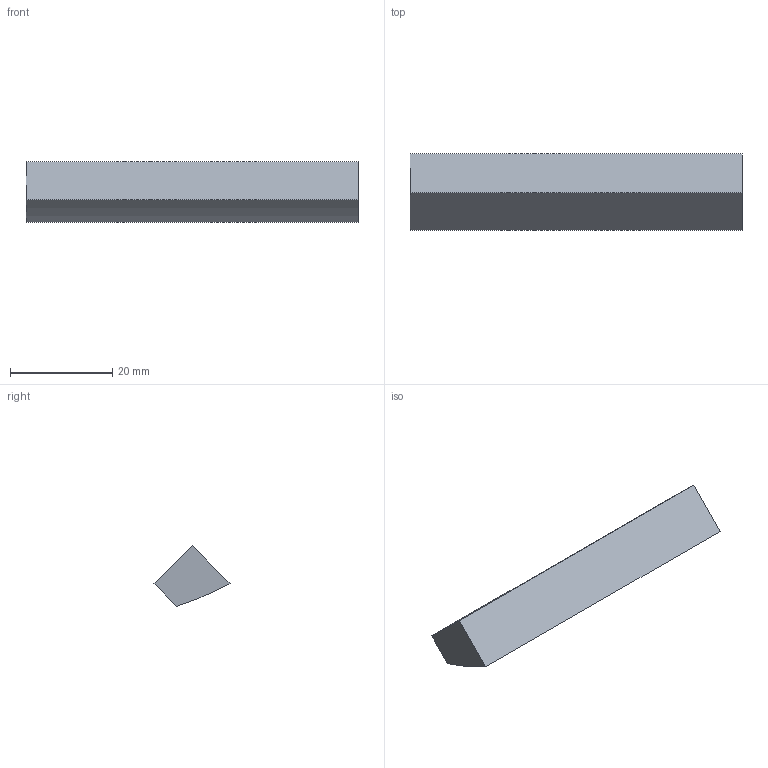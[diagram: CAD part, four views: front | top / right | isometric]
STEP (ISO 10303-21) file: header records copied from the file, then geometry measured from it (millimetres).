
FILE_DESCRIPTION(/* description */ ('STEP AP242 Edition 2','CAx-IF Rec.Pracs.---Representation and Presentation of Product Manufacturing Information (PMI)---4.0---2014-10-13','CAx-IF Rec.Pracs.---3D Tessellated Geometry---0.4---2014-09-14','2;1','CAx-IF Rec.Pracs.---User Defined Attributes---1.5---2016-08-15'),/* implementation_level */ '2;1');
FILE_NAME(/* name */ 'main - Part 46',/* time_stamp */ '2026-11-08T20:03:45Z',/* author */ (''),/* organization */ (''),/* preprocessor_version */ 'ST-DEVELOPER v20',/* originating_system */ 'ONSHAPE BY PTC INC, 1.223',/* authorisation */ ' ');
FILE_SCHEMA (('AP242_MANAGED_MODEL_BASED_3D_ENGINEERING_MIM_LF { 1 0 10303 442 3 1 4 }'));
Length unit declared in the file: metre
Products named in the file (1): Part 46
Bounding box: 65 x 14.88 x 11.89 mm (x, y, z)
Volume: 5886.8 mm3; surface area: 2698.1 mm2
Topology: 1 solids, 1 shells, 6 faces, 12 edges, 8 vertices
Faces by surface type: plane 5, cylinder 1
Entity records: 180 total; most frequent: DIRECTION 28, CARTESIAN_POINT 27, ORIENTED_EDGE 24, EDGE_CURVE 12, LINE 10, VECTOR 10, AXIS2_PLACEMENT_3D 9, VERTEX_POINT 8
